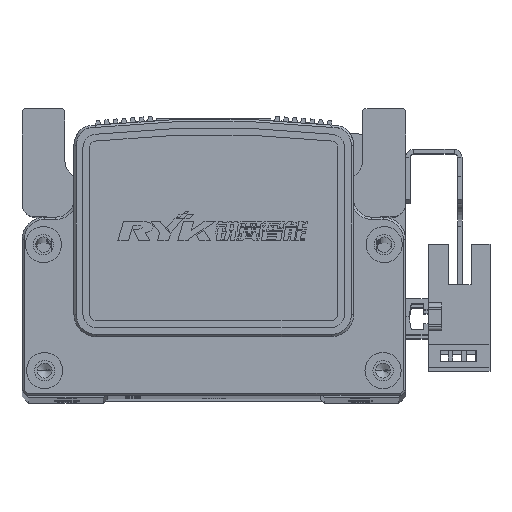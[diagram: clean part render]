
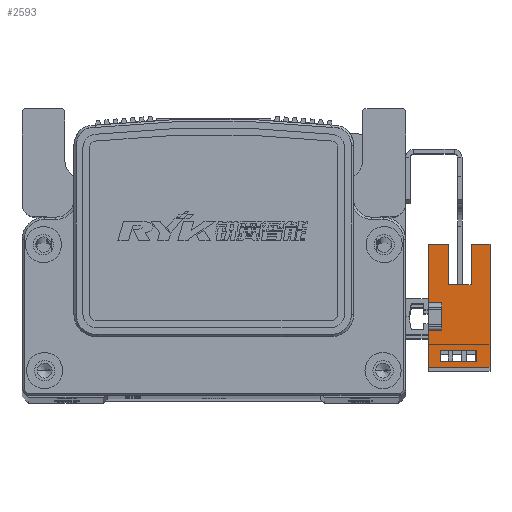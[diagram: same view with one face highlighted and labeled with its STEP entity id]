
A CAD part, top view. The second image highlights one B-rep face of the part: STEP entity #2593.
In plain terms, the highlighted planar face has unit normal (0, 0, 1) as drawn and (1, 0, 0) by its records, which use the part's own axes.
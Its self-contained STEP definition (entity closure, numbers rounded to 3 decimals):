
#2593 = ADVANCED_FACE ( 'NONE', ( #22594, #22623 ), #17305, .T. ) ;
#6514 = AXIS2_PLACEMENT_3D ( 'NONE', #17293, #17311, #17298 ) ;
#7785 = VECTOR ( 'NONE', #28885, 1000. ) ;
#7795 = LINE ( 'NONE', #28882, #7843 ) ;
#7801 = LINE ( 'NONE', #28838, #7828 ) ;
#7813 = LINE ( 'NONE', #28870, #7841 ) ;
#7828 = VECTOR ( 'NONE', #28822, 1000. ) ;
#7841 = VECTOR ( 'NONE', #28888, 1000. ) ;
#7843 = VECTOR ( 'NONE', #28883, 1000. ) ;
#7846 = LINE ( 'NONE', #28858, #7785 ) ;
#7870 = LINE ( 'NONE', #28927, #7885 ) ;
#7885 = VECTOR ( 'NONE', #28906, 1000. ) ;
#9070 = CARTESIAN_POINT ( 'NONE',  ( 3.2, 16.1, -1.5 ) ) ;
#9081 = CARTESIAN_POINT ( 'NONE',  ( 3.2, -9.83, 0.3 ) ) ;
#9083 = CARTESIAN_POINT ( 'NONE',  ( 3.2, -7.33, 0.3 ) ) ;
#11622 = CARTESIAN_POINT ( 'NONE',  ( 3.2, -11.1, 3. ) ) ;
#11647 = CARTESIAN_POINT ( 'NONE',  ( 3.2, 16.1, -10.7 ) ) ;
#11912 = CARTESIAN_POINT ( 'NONE',  ( 3.2, 16.1, -6.5 ) ) ;
#17029 = CARTESIAN_POINT ( 'NONE',  ( 3.2, 7.1, -1.5 ) ) ;
#17031 = CARTESIAN_POINT ( 'NONE',  ( 3.2, 7.1, -6.5 ) ) ;
#17037 = CARTESIAN_POINT ( 'NONE',  ( 3.2, -11.1, -10.7 ) ) ;
#17043 = CARTESIAN_POINT ( 'NONE',  ( 3.2, -9.83, -7.7 ) ) ;
#17053 = CARTESIAN_POINT ( 'NONE',  ( 3.2, -3.1, 0. ) ) ;
#17064 = CARTESIAN_POINT ( 'NONE',  ( 3.2, 3.1, 0. ) ) ;
#17067 = CARTESIAN_POINT ( 'NONE',  ( 3.2, -7.33, -7.7 ) ) ;
#17293 = CARTESIAN_POINT ( 'NONE',  ( 3.2, 16.1, -10.7 ) ) ;
#17298 = DIRECTION ( 'NONE',  ( 0., 1., 0. ) ) ;
#17305 = PLANE ( 'NONE',  #6514 ) ;
#17311 = DIRECTION ( 'NONE',  ( 1., 0., 0. ) ) ;
#19440 = EDGE_LOOP ( 'NONE', ( #22951, #22827, #23043, #23059, #22825, #23033, #22901, #23001, #23041, #23077, #22935, #22975 ) ) ;
#19479 = EDGE_LOOP ( 'NONE', ( #22985, #23069, #22885, #23049 ) ) ;
#22594 = FACE_OUTER_BOUND ( 'NONE', #19440, .T. ) ;
#22623 = FACE_BOUND ( 'NONE', #19479, .T. ) ;
#22825 = ORIENTED_EDGE ( 'NONE', *, *, #48555, .F. ) ;
#22827 = ORIENTED_EDGE ( 'NONE', *, *, #48667, .T. ) ;
#22885 = ORIENTED_EDGE ( 'NONE', *, *, #48605, .F. ) ;
#22901 = ORIENTED_EDGE ( 'NONE', *, *, #48544, .F. ) ;
#22935 = ORIENTED_EDGE ( 'NONE', *, *, #48549, .T. ) ;
#22951 = ORIENTED_EDGE ( 'NONE', *, *, #48653, .T. ) ;
#22975 = ORIENTED_EDGE ( 'NONE', *, *, #48499, .T. ) ;
#22985 = ORIENTED_EDGE ( 'NONE', *, *, #48646, .F. ) ;
#23001 = ORIENTED_EDGE ( 'NONE', *, *, #48531, .F. ) ;
#23033 = ORIENTED_EDGE ( 'NONE', *, *, #48567, .F. ) ;
#23041 = ORIENTED_EDGE ( 'NONE', *, *, #48514, .F. ) ;
#23043 = ORIENTED_EDGE ( 'NONE', *, *, #48572, .T. ) ;
#23049 = ORIENTED_EDGE ( 'NONE', *, *, #48627, .F. ) ;
#23059 = ORIENTED_EDGE ( 'NONE', *, *, #48651, .T. ) ;
#23069 = ORIENTED_EDGE ( 'NONE', *, *, #48614, .F. ) ;
#23077 = ORIENTED_EDGE ( 'NONE', *, *, #48619, .F. ) ;
#28497 = DIRECTION ( 'NONE',  ( 0., 0., 1. ) ) ;
#28505 = CARTESIAN_POINT ( 'NONE',  ( 3.2, 16.1, -10.7 ) ) ;
#28563 = CARTESIAN_POINT ( 'NONE',  ( 3.2, 16.1, 3. ) ) ;
#28587 = DIRECTION ( 'NONE',  ( 0., 1., 0. ) ) ;
#28602 = DIRECTION ( 'NONE',  ( 0., 0., -1. ) ) ;
#28616 = CARTESIAN_POINT ( 'NONE',  ( 3.2, -3.1, 3. ) ) ;
#28619 = CARTESIAN_POINT ( 'NONE',  ( 3.2, 0., 0. ) ) ;
#28626 = CARTESIAN_POINT ( 'NONE',  ( 3.2, 16.1, -10.7 ) ) ;
#28634 = DIRECTION ( 'NONE',  ( 0., 1., 0. ) ) ;
#28654 = CARTESIAN_POINT ( 'NONE',  ( 3.2, 16.1, 3. ) ) ;
#28660 = CARTESIAN_POINT ( 'NONE',  ( 3.2, 3.1, 3. ) ) ;
#28675 = DIRECTION ( 'NONE',  ( 0., 1., 0. ) ) ;
#28682 = DIRECTION ( 'NONE',  ( 0., 0., 1. ) ) ;
#28683 = DIRECTION ( 'NONE',  ( 0., 1., 0. ) ) ;
#28685 = CARTESIAN_POINT ( 'NONE',  ( 3.2, 25.1, -1.5 ) ) ;
#28700 = DIRECTION ( 'NONE',  ( 0., 1., 0. ) ) ;
#28732 = CARTESIAN_POINT ( 'NONE',  ( 3.2, 16.1, -7.7 ) ) ;
#28768 = CARTESIAN_POINT ( 'NONE',  ( 3.2, -11.1, 3. ) ) ;
#28775 = DIRECTION ( 'NONE',  ( 0., 0., 1. ) ) ;
#28779 = DIRECTION ( 'NONE',  ( 0., 0., 1. ) ) ;
#28785 = DIRECTION ( 'NONE',  ( 0., 1., 0. ) ) ;
#28801 = CARTESIAN_POINT ( 'NONE',  ( 3.2, -7.33, -10.7 ) ) ;
#28822 = DIRECTION ( 'NONE',  ( 0., 0., -1. ) ) ;
#28838 = CARTESIAN_POINT ( 'NONE',  ( 3.2, -9.83, -10.7 ) ) ;
#28858 = CARTESIAN_POINT ( 'NONE',  ( 3.2, 25.1, -6.5 ) ) ;
#28870 = CARTESIAN_POINT ( 'NONE',  ( 3.2, 16.1, 0.3 ) ) ;
#28882 = CARTESIAN_POINT ( 'NONE',  ( 3.2, 16.1, -10.7 ) ) ;
#28883 = DIRECTION ( 'NONE',  ( 0., 0., 1. ) ) ;
#28885 = DIRECTION ( 'NONE',  ( 0., -1., 0. ) ) ;
#28888 = DIRECTION ( 'NONE',  ( 0., -1., 0. ) ) ;
#28906 = DIRECTION ( 'NONE',  ( 0., 0., 1. ) ) ;
#28927 = CARTESIAN_POINT ( 'NONE',  ( 3.2, 7.1, -6.5 ) ) ;
#41824 = CARTESIAN_POINT ( 'NONE',  ( 3.2, 3.1, 3. ) ) ;
#41838 = CARTESIAN_POINT ( 'NONE',  ( 3.2, 16.1, 3. ) ) ;
#41855 = CARTESIAN_POINT ( 'NONE',  ( 3.2, -3.1, 3. ) ) ;
#43696 = VECTOR ( 'NONE', #28700, 1000. ) ;
#43721 = LINE ( 'NONE', #28768, #43962 ) ;
#43747 = VECTOR ( 'NONE', #28785, 1000. ) ;
#43797 = LINE ( 'NONE', #28732, #43747 ) ;
#43962 = VECTOR ( 'NONE', #28779, 1000. ) ;
#44575 = LINE ( 'NONE', #28801, #44641 ) ;
#44641 = VECTOR ( 'NONE', #28775, 1000. ) ;
#45009 = VECTOR ( 'NONE', #28497, 1000. ) ;
#45016 = LINE ( 'NONE', #28563, #45022 ) ;
#45022 = VECTOR ( 'NONE', #28587, 1000. ) ;
#45029 = LINE ( 'NONE', #28505, #45009 ) ;
#45066 = LINE ( 'NONE', #28654, #45115 ) ;
#45094 = LINE ( 'NONE', #28616, #45124 ) ;
#45105 = LINE ( 'NONE', #28619, #45165 ) ;
#45115 = VECTOR ( 'NONE', #28683, 1000. ) ;
#45120 = LINE ( 'NONE', #28626, #45159 ) ;
#45124 = VECTOR ( 'NONE', #28602, 1000. ) ;
#45159 = VECTOR ( 'NONE', #28675, 1000. ) ;
#45165 = VECTOR ( 'NONE', #28634, 1000. ) ;
#45189 = LINE ( 'NONE', #28685, #43696 ) ;
#45196 = LINE ( 'NONE', #28660, #45200 ) ;
#45200 = VECTOR ( 'NONE', #28682, 1000. ) ;
#47697 = VERTEX_POINT ( 'NONE', #17053 ) ;
#47699 = VERTEX_POINT ( 'NONE', #17037 ) ;
#47701 = VERTEX_POINT ( 'NONE', #17067 ) ;
#47702 = VERTEX_POINT ( 'NONE', #17031 ) ;
#47716 = VERTEX_POINT ( 'NONE', #17064 ) ;
#47724 = VERTEX_POINT ( 'NONE', #17029 ) ;
#47726 = VERTEX_POINT ( 'NONE', #17043 ) ;
#47742 = VERTEX_POINT ( 'NONE', #9083 ) ;
#47747 = VERTEX_POINT ( 'NONE', #9070 ) ;
#47757 = VERTEX_POINT ( 'NONE', #9081 ) ;
#48499 = EDGE_CURVE ( 'NONE', #49316, #49319, #45029, .T. ) ;
#48514 = EDGE_CURVE ( 'NONE', #49311, #49325, #45016, .T. ) ;
#48531 = EDGE_CURVE ( 'NONE', #49325, #47697, #45094, .T. ) ;
#48544 = EDGE_CURVE ( 'NONE', #47697, #47716, #45105, .T. ) ;
#48549 = EDGE_CURVE ( 'NONE', #47699, #49316, #45120, .T. ) ;
#48555 = EDGE_CURVE ( 'NONE', #49328, #49343, #45066, .T. ) ;
#48567 = EDGE_CURVE ( 'NONE', #47716, #49328, #45196, .T. ) ;
#48572 = EDGE_CURVE ( 'NONE', #47724, #47747, #45189, .T. ) ;
#48605 = EDGE_CURVE ( 'NONE', #47726, #47701, #43797, .T. ) ;
#48614 = EDGE_CURVE ( 'NONE', #47701, #47742, #44575, .T. ) ;
#48619 = EDGE_CURVE ( 'NONE', #47699, #49311, #43721, .T. ) ;
#48627 = EDGE_CURVE ( 'NONE', #47757, #47726, #7801, .T. ) ;
#48646 = EDGE_CURVE ( 'NONE', #47742, #47757, #7813, .T. ) ;
#48651 = EDGE_CURVE ( 'NONE', #47747, #49343, #7795, .T. ) ;
#48653 = EDGE_CURVE ( 'NONE', #49319, #47702, #7846, .T. ) ;
#48667 = EDGE_CURVE ( 'NONE', #47702, #47724, #7870, .T. ) ;
#49311 = VERTEX_POINT ( 'NONE', #11622 ) ;
#49316 = VERTEX_POINT ( 'NONE', #11647 ) ;
#49319 = VERTEX_POINT ( 'NONE', #11912 ) ;
#49325 = VERTEX_POINT ( 'NONE', #41855 ) ;
#49328 = VERTEX_POINT ( 'NONE', #41824 ) ;
#49343 = VERTEX_POINT ( 'NONE', #41838 ) ;
